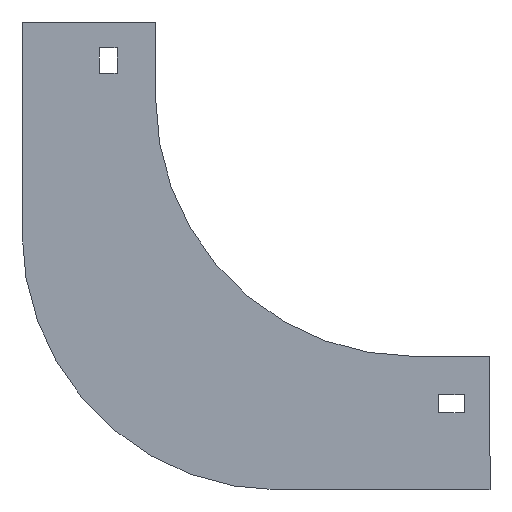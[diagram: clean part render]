
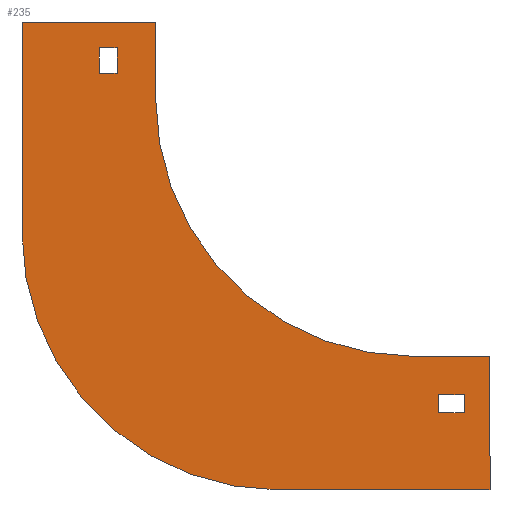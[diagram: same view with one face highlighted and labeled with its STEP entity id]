
A CAD part, left-side view. The second image highlights one B-rep face of the part: STEP entity #235.
In plain terms, the highlighted planar face has unit normal (-1, 0, 0).
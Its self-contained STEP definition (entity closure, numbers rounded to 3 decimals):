
#9 = CARTESIAN_POINT ( 'NONE',  ( -77., -100., -30. ) ) ;
#17 = ORIENTED_EDGE ( 'NONE', *, *, #1302, .F. ) ;
#18 = CARTESIAN_POINT ( 'NONE',  ( -77., -130., -182. ) ) ;
#50 = VERTEX_POINT ( 'NONE', #294 ) ;
#55 = LINE ( 'NONE', #587, #822 ) ;
#74 = EDGE_CURVE ( 'NONE', #349, #772, #1101, .T. ) ;
#88 = ORIENTED_EDGE ( 'NONE', *, *, #1144, .F. ) ;
#98 = VECTOR ( 'NONE', #750, 1000. ) ;
#116 = LINE ( 'NONE', #1285, #792 ) ;
#129 = CARTESIAN_POINT ( 'NONE',  ( -77., -48., -82. ) ) ;
#132 = ORIENTED_EDGE ( 'NONE', *, *, #306, .T. ) ;
#136 = CARTESIAN_POINT ( 'NONE',  ( -77., -130., -182. ) ) ;
#140 = DIRECTION ( 'NONE',  ( 0., 0., -1. ) ) ;
#169 = VERTEX_POINT ( 'NONE', #535 ) ;
#183 = DIRECTION ( 'NONE',  ( 0., 0., 1. ) ) ;
#197 = AXIS2_PLACEMENT_3D ( 'NONE', #9, #339, #216 ) ;
#205 = CARTESIAN_POINT ( 'NONE',  ( -77., -110., -145. ) ) ;
#211 = EDGE_CURVE ( 'NONE', #975, #273, #1394, .T. ) ;
#216 = DIRECTION ( 'NONE',  ( 0., 0., 1. ) ) ;
#223 = LINE ( 'NONE', #641, #627 ) ;
#227 = DIRECTION ( 'NONE',  ( 0., 1., 0. ) ) ;
#229 = EDGE_CURVE ( 'NONE', #772, #507, #326, .T. ) ;
#235 = ADVANCED_FACE ( 'NONE', ( #1197, #958, #330 ), #1287, .T. ) ;
#253 = ORIENTED_EDGE ( 'NONE', *, *, #74, .F. ) ;
#255 = DIRECTION ( 'NONE',  ( 0., 1., 0. ) ) ;
#262 = CARTESIAN_POINT ( 'NONE',  ( -77., 22., -10. ) ) ;
#267 = CARTESIAN_POINT ( 'NONE',  ( -77., 22., -20. ) ) ;
#273 = VERTEX_POINT ( 'NONE', #262 ) ;
#275 = DIRECTION ( 'NONE',  ( 0., 0., -1. ) ) ;
#276 = DIRECTION ( 'NONE',  ( 0., 0., 1. ) ) ;
#283 = VERTEX_POINT ( 'NONE', #786 ) ;
#287 = LINE ( 'NONE', #694, #301 ) ;
#294 = CARTESIAN_POINT ( 'NONE',  ( -77., -120., -152. ) ) ;
#296 = VERTEX_POINT ( 'NONE', #978 ) ;
#297 = LINE ( 'NONE', #689, #429 ) ;
#301 = VECTOR ( 'NONE', #275, 1000. ) ;
#306 = EDGE_CURVE ( 'NONE', #273, #296, #877, .T. ) ;
#314 = ORIENTED_EDGE ( 'NONE', *, *, #946, .F. ) ;
#326 = LINE ( 'NONE', #18, #442 ) ;
#330 = FACE_BOUND ( 'NONE', #531, .T. ) ;
#339 = DIRECTION ( 'NONE',  ( -1., 0., 0. ) ) ;
#342 = ORIENTED_EDGE ( 'NONE', *, *, #1325, .F. ) ;
#347 = VERTEX_POINT ( 'NONE', #992 ) ;
#349 = VERTEX_POINT ( 'NONE', #1087 ) ;
#357 = VERTEX_POINT ( 'NONE', #1105 ) ;
#398 = LINE ( 'NONE', #513, #1140 ) ;
#409 = CARTESIAN_POINT ( 'NONE',  ( -77., -120., -145. ) ) ;
#425 = VECTOR ( 'NONE', #183, 1000. ) ;
#429 = VECTOR ( 'NONE', #611, 1000. ) ;
#436 = CARTESIAN_POINT ( 'NONE',  ( -77., -100., -130. ) ) ;
#442 = VECTOR ( 'NONE', #227, 1000. ) ;
#464 = EDGE_CURVE ( 'NONE', #803, #349, #55, .T. ) ;
#476 = VECTOR ( 'NONE', #140, 1000. ) ;
#477 = DIRECTION ( 'NONE',  ( 0., -1., 0. ) ) ;
#491 = ORIENTED_EDGE ( 'NONE', *, *, #229, .F. ) ;
#507 = VERTEX_POINT ( 'NONE', #1155 ) ;
#513 = CARTESIAN_POINT ( 'NONE',  ( -77., 15., -10. ) ) ;
#531 = EDGE_LOOP ( 'NONE', ( #700, #985, #17, #1088 ) ) ;
#535 = CARTESIAN_POINT ( 'NONE',  ( -77., 15., -20. ) ) ;
#539 = VECTOR ( 'NONE', #276, 1000. ) ;
#542 = DIRECTION ( 'NONE',  ( 0., -1., 0. ) ) ;
#543 = VERTEX_POINT ( 'NONE', #205 ) ;
#560 = VECTOR ( 'NONE', #1065, 1000. ) ;
#562 = DIRECTION ( 'NONE',  ( 1., 0., 0. ) ) ;
#569 = EDGE_LOOP ( 'NONE', ( #132, #1397, #1250, #612 ) ) ;
#581 = EDGE_CURVE ( 'NONE', #50, #1198, #623, .T. ) ;
#587 = CARTESIAN_POINT ( 'NONE',  ( -77., -100., -130. ) ) ;
#605 = ORIENTED_EDGE ( 'NONE', *, *, #1005, .F. ) ;
#611 = DIRECTION ( 'NONE',  ( 0., 0., -1. ) ) ;
#612 = ORIENTED_EDGE ( 'NONE', *, *, #211, .T. ) ;
#623 = LINE ( 'NONE', #1048, #425 ) ;
#627 = VECTOR ( 'NONE', #1064, 1000. ) ;
#641 = CARTESIAN_POINT ( 'NONE',  ( -77., -120., -145. ) ) ;
#652 = ORIENTED_EDGE ( 'NONE', *, *, #927, .F. ) ;
#662 = ORIENTED_EDGE ( 'NONE', *, *, #464, .F. ) ;
#680 = VECTOR ( 'NONE', #542, 1000. ) ;
#689 = CARTESIAN_POINT ( 'NONE',  ( -77., 0., 0. ) ) ;
#693 = CARTESIAN_POINT ( 'NONE',  ( -77., -130., -130. ) ) ;
#694 = CARTESIAN_POINT ( 'NONE',  ( -77., -110., -152. ) ) ;
#700 = ORIENTED_EDGE ( 'NONE', *, *, #870, .F. ) ;
#746 = EDGE_CURVE ( 'NONE', #169, #975, #116, .T. ) ;
#750 = DIRECTION ( 'NONE',  ( 0., 0., 1. ) ) ;
#754 = CIRCLE ( 'NONE', #1000, 100. ) ;
#772 = VERTEX_POINT ( 'NONE', #136 ) ;
#786 = CARTESIAN_POINT ( 'NONE',  ( -77., 0., 0. ) ) ;
#792 = VECTOR ( 'NONE', #255, 1000. ) ;
#803 = VERTEX_POINT ( 'NONE', #436 ) ;
#822 = VECTOR ( 'NONE', #1009, 1000. ) ;
#845 = CARTESIAN_POINT ( 'NONE',  ( -77., 52., 0. ) ) ;
#858 = VERTEX_POINT ( 'NONE', #876 ) ;
#870 = EDGE_CURVE ( 'NONE', #1198, #543, #223, .T. ) ;
#876 = CARTESIAN_POINT ( 'NONE',  ( -77., 52., 0. ) ) ;
#877 = LINE ( 'NONE', #997, #1186 ) ;
#882 = LINE ( 'NONE', #1227, #539 ) ;
#903 = EDGE_LOOP ( 'NONE', ( #342, #314, #652, #491, #253, #662, #605, #88 ) ) ;
#927 = EDGE_CURVE ( 'NONE', #507, #1074, #754, .T. ) ;
#946 = EDGE_CURVE ( 'NONE', #1074, #858, #882, .T. ) ;
#958 = FACE_OUTER_BOUND ( 'NONE', #903, .T. ) ;
#966 = CARTESIAN_POINT ( 'NONE',  ( -77., 22., -10. ) ) ;
#975 = VERTEX_POINT ( 'NONE', #267 ) ;
#978 = CARTESIAN_POINT ( 'NONE',  ( -77., 15., -10. ) ) ;
#983 = DIRECTION ( 'NONE',  ( 0., 0., -1. ) ) ;
#985 = ORIENTED_EDGE ( 'NONE', *, *, #581, .F. ) ;
#992 = CARTESIAN_POINT ( 'NONE',  ( -77., 0., -30. ) ) ;
#997 = CARTESIAN_POINT ( 'NONE',  ( -77., 22., -10. ) ) ;
#1000 = AXIS2_PLACEMENT_3D ( 'NONE', #129, #562, #983 ) ;
#1002 = EDGE_CURVE ( 'NONE', #543, #357, #287, .T. ) ;
#1005 = EDGE_CURVE ( 'NONE', #347, #803, #1069, .T. ) ;
#1009 = DIRECTION ( 'NONE',  ( 0., -1., 0. ) ) ;
#1012 = DIRECTION ( 'NONE',  ( 0., 0., 1. ) ) ;
#1013 = DIRECTION ( 'NONE',  ( 0., 0., -1. ) ) ;
#1048 = CARTESIAN_POINT ( 'NONE',  ( -77., -120., -152. ) ) ;
#1059 = CARTESIAN_POINT ( 'NONE',  ( -77., -120., -152. ) ) ;
#1064 = DIRECTION ( 'NONE',  ( 0., 1., 0. ) ) ;
#1065 = DIRECTION ( 'NONE',  ( 0., -1., 0. ) ) ;
#1069 = CIRCLE ( 'NONE', #1299, 100. ) ;
#1074 = VERTEX_POINT ( 'NONE', #1288 ) ;
#1084 = CARTESIAN_POINT ( 'NONE',  ( -77., -100., -30. ) ) ;
#1087 = CARTESIAN_POINT ( 'NONE',  ( -77., -130., -130. ) ) ;
#1088 = ORIENTED_EDGE ( 'NONE', *, *, #1002, .F. ) ;
#1101 = LINE ( 'NONE', #693, #476 ) ;
#1105 = CARTESIAN_POINT ( 'NONE',  ( -77., -110., -152. ) ) ;
#1122 = DIRECTION ( 'NONE',  ( -1., 0., 0. ) ) ;
#1140 = VECTOR ( 'NONE', #1013, 1000. ) ;
#1144 = EDGE_CURVE ( 'NONE', #283, #347, #297, .T. ) ;
#1155 = CARTESIAN_POINT ( 'NONE',  ( -77., -48., -182. ) ) ;
#1186 = VECTOR ( 'NONE', #477, 1000. ) ;
#1197 = FACE_BOUND ( 'NONE', #569, .T. ) ;
#1198 = VERTEX_POINT ( 'NONE', #409 ) ;
#1227 = CARTESIAN_POINT ( 'NONE',  ( -77., 52., -82. ) ) ;
#1250 = ORIENTED_EDGE ( 'NONE', *, *, #746, .T. ) ;
#1264 = EDGE_CURVE ( 'NONE', #296, #169, #398, .T. ) ;
#1279 = LINE ( 'NONE', #1059, #680 ) ;
#1285 = CARTESIAN_POINT ( 'NONE',  ( -77., 22., -20. ) ) ;
#1287 = PLANE ( 'NONE',  #197 ) ;
#1288 = CARTESIAN_POINT ( 'NONE',  ( -77., 52., -82. ) ) ;
#1299 = AXIS2_PLACEMENT_3D ( 'NONE', #1084, #1122, #1012 ) ;
#1302 = EDGE_CURVE ( 'NONE', #357, #50, #1279, .T. ) ;
#1325 = EDGE_CURVE ( 'NONE', #858, #283, #1407, .T. ) ;
#1394 = LINE ( 'NONE', #966, #98 ) ;
#1397 = ORIENTED_EDGE ( 'NONE', *, *, #1264, .T. ) ;
#1407 = LINE ( 'NONE', #845, #560 ) ;
